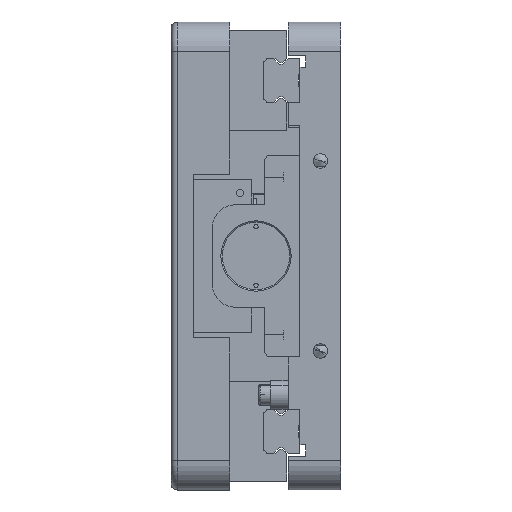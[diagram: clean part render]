
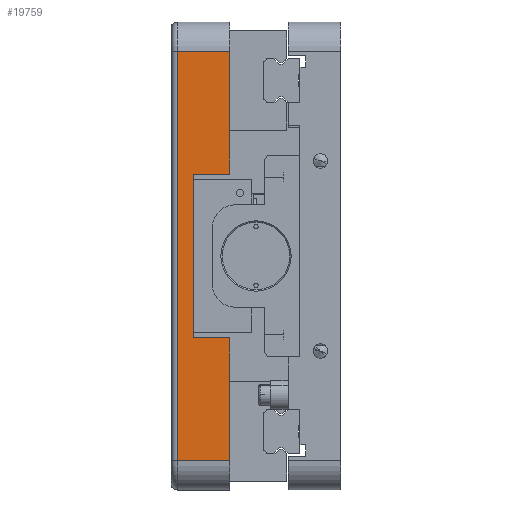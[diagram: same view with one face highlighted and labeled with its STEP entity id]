
A CAD part, left-side view. The second image highlights one B-rep face of the part: STEP entity #19759.
In plain terms, the highlighted planar face has unit normal (-1, 0, 0).
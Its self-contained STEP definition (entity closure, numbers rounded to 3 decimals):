
#1531 = LINE ( 'NONE', #2293, #32516 ) ;
#1919 = VERTEX_POINT ( 'NONE', #18675 ) ;
#2283 = CARTESIAN_POINT ( 'NONE',  ( -98.5, 38., -28. ) ) ;
#2293 = CARTESIAN_POINT ( 'NONE',  ( -98.5, 50.5, -28. ) ) ;
#2955 = CARTESIAN_POINT ( 'NONE',  ( -98.5, 56., -70. ) ) ;
#3767 = DIRECTION ( 'NONE',  ( 0., -1., 0. ) ) ;
#4489 = CARTESIAN_POINT ( 'NONE',  ( -98.5, 56., 70. ) ) ;
#5061 = AXIS2_PLACEMENT_3D ( 'NONE', #31960, #15717, #35823 ) ;
#5496 = VERTEX_POINT ( 'NONE', #44188 ) ;
#6312 = ORIENTED_EDGE ( 'NONE', *, *, #34836, .T. ) ;
#7059 = DIRECTION ( 'NONE',  ( 0., 0., -1. ) ) ;
#9105 = EDGE_CURVE ( 'NONE', #20012, #19543, #12919, .T. ) ;
#10613 = VECTOR ( 'NONE', #7059, 1000. ) ;
#10670 = DIRECTION ( 'NONE',  ( 0., 0., 1. ) ) ;
#10899 = VERTEX_POINT ( 'NONE', #51459 ) ;
#11176 = VECTOR ( 'NONE', #15766, 1000. ) ;
#11905 = CARTESIAN_POINT ( 'NONE',  ( -98.5, 38., -80. ) ) ;
#12165 = VECTOR ( 'NONE', #10670, 1000. ) ;
#12919 = LINE ( 'NONE', #19943, #33118 ) ;
#13763 = LINE ( 'NONE', #44023, #47230 ) ;
#13811 = LINE ( 'NONE', #32448, #23298 ) ;
#15090 = EDGE_CURVE ( 'NONE', #1919, #45259, #1531, .T. ) ;
#15717 = DIRECTION ( 'NONE',  ( 1., 0., 0. ) ) ;
#15763 = CARTESIAN_POINT ( 'NONE',  ( -98.5, 38., 28. ) ) ;
#15766 = DIRECTION ( 'NONE',  ( 0., 0., 1. ) ) ;
#17203 = VERTEX_POINT ( 'NONE', #45558 ) ;
#18675 = CARTESIAN_POINT ( 'NONE',  ( -98.5, 50.5, -28. ) ) ;
#19000 = EDGE_CURVE ( 'NONE', #20446, #20012, #21905, .T. ) ;
#19543 = VERTEX_POINT ( 'NONE', #4489 ) ;
#19759 = ADVANCED_FACE ( 'NONE', ( #25016 ), #19780, .F. ) ;
#19780 = PLANE ( 'NONE',  #5061 ) ;
#19943 = CARTESIAN_POINT ( 'NONE',  ( -98.5, 58., 70. ) ) ;
#20012 = VERTEX_POINT ( 'NONE', #23747 ) ;
#20446 = VERTEX_POINT ( 'NONE', #15763 ) ;
#21905 = LINE ( 'NONE', #51398, #11176 ) ;
#23298 = VECTOR ( 'NONE', #36496, 1000. ) ;
#23747 = CARTESIAN_POINT ( 'NONE',  ( -98.5, 38., 70. ) ) ;
#23899 = LINE ( 'NONE', #47400, #44072 ) ;
#25016 = FACE_OUTER_BOUND ( 'NONE', #48105, .T. ) ;
#26215 = ORIENTED_EDGE ( 'NONE', *, *, #28943, .F. ) ;
#27992 = DIRECTION ( 'NONE',  ( 0., -1., 0. ) ) ;
#28943 = EDGE_CURVE ( 'NONE', #5496, #1919, #23899, .T. ) ;
#30141 = ORIENTED_EDGE ( 'NONE', *, *, #40939, .T. ) ;
#31960 = CARTESIAN_POINT ( 'NONE',  ( -98.5, 58., -80. ) ) ;
#32050 = ORIENTED_EDGE ( 'NONE', *, *, #41344, .T. ) ;
#32448 = CARTESIAN_POINT ( 'NONE',  ( -98.5, 50.5, 28. ) ) ;
#32516 = VECTOR ( 'NONE', #27992, 1000. ) ;
#33118 = VECTOR ( 'NONE', #40253, 1000. ) ;
#34836 = EDGE_CURVE ( 'NONE', #19543, #10899, #41558, .T. ) ;
#35823 = DIRECTION ( 'NONE',  ( 0., 0., -1. ) ) ;
#36496 = DIRECTION ( 'NONE',  ( 0., -1., 0. ) ) ;
#37929 = ORIENTED_EDGE ( 'NONE', *, *, #38615, .T. ) ;
#38615 = EDGE_CURVE ( 'NONE', #17203, #45259, #43075, .T. ) ;
#39106 = ORIENTED_EDGE ( 'NONE', *, *, #19000, .T. ) ;
#39293 = DIRECTION ( 'NONE',  ( 0., 0., -1. ) ) ;
#40253 = DIRECTION ( 'NONE',  ( 0., 1., 0. ) ) ;
#40939 = EDGE_CURVE ( 'NONE', #5496, #20446, #13811, .T. ) ;
#41344 = EDGE_CURVE ( 'NONE', #10899, #17203, #13763, .T. ) ;
#41558 = LINE ( 'NONE', #2955, #10613 ) ;
#42094 = ORIENTED_EDGE ( 'NONE', *, *, #9105, .T. ) ;
#42574 = ORIENTED_EDGE ( 'NONE', *, *, #15090, .F. ) ;
#43075 = LINE ( 'NONE', #11905, #12165 ) ;
#44023 = CARTESIAN_POINT ( 'NONE',  ( -98.5, 58., -70. ) ) ;
#44072 = VECTOR ( 'NONE', #39293, 1000. ) ;
#44188 = CARTESIAN_POINT ( 'NONE',  ( -98.5, 50.5, 28. ) ) ;
#45259 = VERTEX_POINT ( 'NONE', #2283 ) ;
#45558 = CARTESIAN_POINT ( 'NONE',  ( -98.5, 38., -70. ) ) ;
#47230 = VECTOR ( 'NONE', #3767, 1000. ) ;
#47400 = CARTESIAN_POINT ( 'NONE',  ( -98.5, 50.5, -28. ) ) ;
#48105 = EDGE_LOOP ( 'NONE', ( #42094, #6312, #32050, #37929, #42574, #26215, #30141, #39106 ) ) ;
#51398 = CARTESIAN_POINT ( 'NONE',  ( -98.5, 38., -80. ) ) ;
#51459 = CARTESIAN_POINT ( 'NONE',  ( -98.5, 56., -70. ) ) ;
